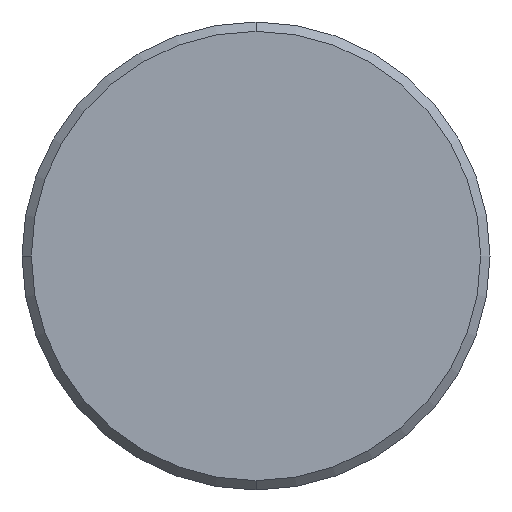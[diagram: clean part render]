
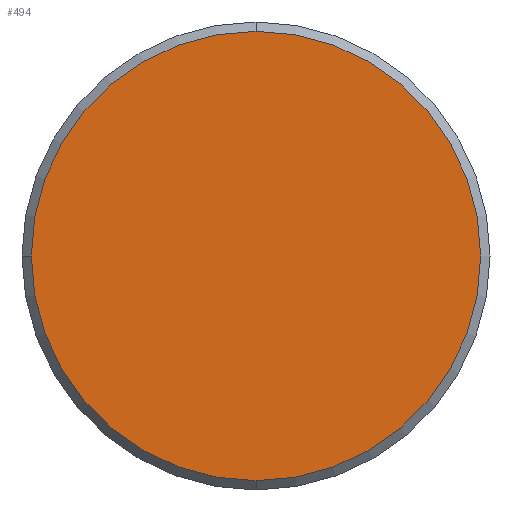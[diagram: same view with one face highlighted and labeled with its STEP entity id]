
A CAD part, left-side view. The second image highlights one B-rep face of the part: STEP entity #494.
In plain terms, the highlighted planar face has unit normal (-1, 0, 0).
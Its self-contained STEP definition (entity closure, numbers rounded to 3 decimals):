
#118 = CARTESIAN_POINT ( 'NONE',  ( 0., 0., 12. ) ) ;
#123 = AXIS2_PLACEMENT_3D ( 'NONE', #1160, #1110, #1175 ) ;
#141 = AXIS2_PLACEMENT_3D ( 'NONE', #194, #176, #191 ) ;
#142 = CIRCLE ( 'NONE', #123, 12. ) ;
#176 = DIRECTION ( 'NONE',  ( 1., 0., 0. ) ) ;
#191 = DIRECTION ( 'NONE',  ( 0., 0., -1. ) ) ;
#194 = CARTESIAN_POINT ( 'NONE',  ( 0., -12.65, 12.65 ) ) ;
#239 = FACE_OUTER_BOUND ( 'NONE', #832, .T. ) ;
#250 = PLANE ( 'NONE',  #141 ) ;
#347 = ORIENTED_EDGE ( 'NONE', *, *, #607, .F. ) ;
#354 = ORIENTED_EDGE ( 'NONE', *, *, #559, .F. ) ;
#358 = ORIENTED_EDGE ( 'NONE', *, *, #622, .F. ) ;
#494 = ADVANCED_FACE ( 'NONE', ( #239 ), #250, .F. ) ;
#559 = EDGE_CURVE ( 'NONE', #794, #852, #142, .T. ) ;
#607 = EDGE_CURVE ( 'NONE', #836, #794, #893, .T. ) ;
#622 = EDGE_CURVE ( 'NONE', #852, #836, #924, .T. ) ;
#651 = CARTESIAN_POINT ( 'NONE',  ( 0., 12., 0. ) ) ;
#652 = CARTESIAN_POINT ( 'NONE',  ( 0., 0., -12. ) ) ;
#794 = VERTEX_POINT ( 'NONE', #118 ) ;
#832 = EDGE_LOOP ( 'NONE', ( #354, #347, #358 ) ) ;
#836 = VERTEX_POINT ( 'NONE', #651 ) ;
#852 = VERTEX_POINT ( 'NONE', #652 ) ;
#881 = AXIS2_PLACEMENT_3D ( 'NONE', #1245, #1237, #1243 ) ;
#893 = CIRCLE ( 'NONE', #900, 12. ) ;
#900 = AXIS2_PLACEMENT_3D ( 'NONE', #1198, #1197, #1210 ) ;
#924 = CIRCLE ( 'NONE', #881, 12. ) ;
#1110 = DIRECTION ( 'NONE',  ( 1., 0., 0. ) ) ;
#1160 = CARTESIAN_POINT ( 'NONE',  ( 0., 0., 0. ) ) ;
#1175 = DIRECTION ( 'NONE',  ( 0., 0., -1. ) ) ;
#1197 = DIRECTION ( 'NONE',  ( 1., 0., 0. ) ) ;
#1198 = CARTESIAN_POINT ( 'NONE',  ( 0., 0., 0. ) ) ;
#1210 = DIRECTION ( 'NONE',  ( 0., 1., 0. ) ) ;
#1237 = DIRECTION ( 'NONE',  ( 1., 0., 0. ) ) ;
#1243 = DIRECTION ( 'NONE',  ( 0., 1., 0. ) ) ;
#1245 = CARTESIAN_POINT ( 'NONE',  ( 0., 0., 0. ) ) ;
